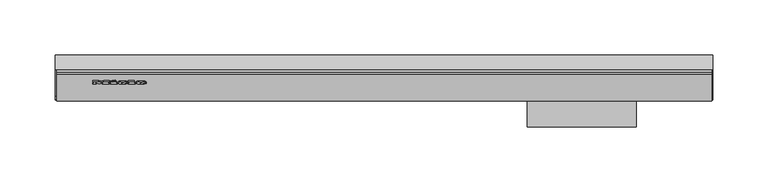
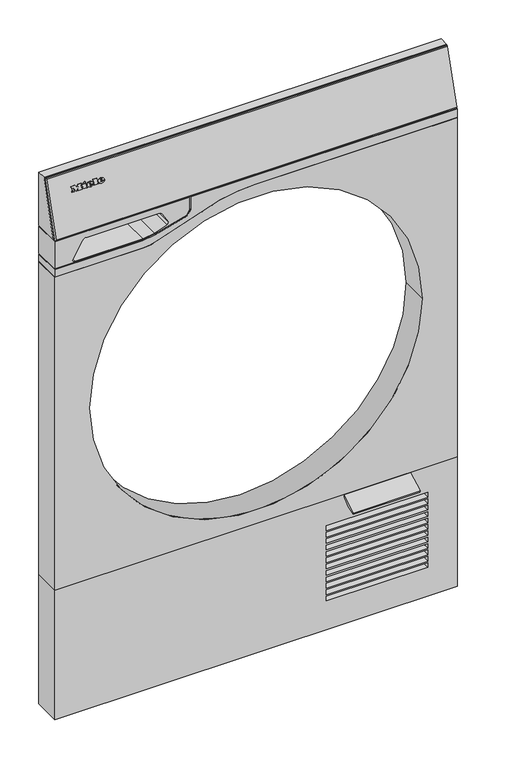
"""IFC4 building model written with IfcOpenShell, lengths in millimetres: proxy geometry, 12695040_EU3_TQ1000WP_LW : 12Q10001_EU3_12695040_TQ1000WP_LW."""

from ifc_helpers import new_model, si_unit, point, frame, frame_2d, origin, place, context, project, spatial, polyline, circle_curve, ellipse_curve, trimmed, segment, composite_curve, outline, extrude, faceted_brep, source, transform, mapped, element, save
from ifc_brep_helpers import plane_surface, cylinder_surface, revolved_surface, extruded_surface, advanced_brep


def specialty_equipment_3a14cf9e(model_context):
    return source(origin(), model_context, "Body", "SolidModel", [
        extrude(outline(polyline([(0.0, 0.0), (0.0, -1.304), (-5.576, -1.304), (-7.92, 1.6960001), (-10.256, -1.304), (-15.128, -1.304), (-15.128, 0.0), (-14.112, 0.0), (-14.112, 5.3520001), (-15.128, 5.3520001), (-15.128, 6.6960001), (-8.744, 6.6960001), (-8.744, 5.3520001), (-9.728, 5.3520001), (-9.728, 1.8807777), (-6.136, 6.6960001), (-2.56, 1.9488753), (-2.56, 5.3520001), (-3.52, 5.3520001), (-3.52, 6.6960001), (0.0, 6.6960001), (0.0, 5.3520001), (-0.968, 5.3520001), (-0.968, 0.0), (0.0, 0.0)])), frame((-264.1667108, -605.6421739, 828.8606069), z_axis=(0.0, -0.9563047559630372, 0.2923717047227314), x_axis=(-1.0, 0.0, 0.0)), (0.0, 0.0, 1.0), 1.0),
        extrude(outline(polyline([(0.0, 0.0), (0.0, -1.304), (-5.504, -1.304), (-5.504, 5.3520001), (-6.488, 5.3520001), (-6.488, 6.6960001), (0.0, 6.6960001), (0.0, 5.3520001), (-0.96, 5.3520001), (-0.96, 0.0), (0.0, 0.0)])), frame((-231.7027108, -605.6421739, 828.8606069), z_axis=(0.0, -0.9563047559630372, 0.2923717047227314), x_axis=(-1.0, 0.0, 0.0)), (0.0, 0.0, 1.0), 1.0),
        extrude(outline(polyline([(0.0, 0.0), (-0.0109086, -2.9993294), (-1.4390415, -2.9920868), (-1.4315307, 0.0), (0.0, 0.0)])), frame((-246.2467108, -605.3989207, 829.6562525), z_axis=(0.0, -0.9563047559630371, 0.29237170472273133), x_axis=(-0.42472021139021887, 0.26469131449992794, 0.8657662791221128)), (0.0, 0.0, 1.0), 1.0),
        extrude(outline(polyline([(-0.4933908, 2.4141097), (-2.7800845, -2.4601583), (-7.0459743, -0.4588766), (-7.4401146, -1.2990179), (-8.656871, -0.7281939), (-5.976037, 4.9862153), (-4.7592806, 4.4153914), (-5.1636143, 3.5535223), (-2.1941494, 2.16044), (-1.7898157, 3.0223091), (-0.4933908, 2.4141097)])), frame((-246.2467108, -605.3989207, 829.6562525), z_axis=(0.0, -0.9563047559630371, 0.29237170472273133), x_axis=(-0.42472021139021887, 0.26469131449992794, 0.8657662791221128)), (0.0, 0.0, 1.0), 1.0),
        advanced_brep(
        [(-237.5027108, -608.0018629, 824.5627158), (-237.5027108, -607.7656265, 825.33541), (-232.1507108, -607.7656265, 825.33541), (-241.4627108, -607.7656265, 825.33541), (-239.2627108, -608.5561996, 822.749562), (-232.2867108, -608.0018629, 824.5627158), (-234.7027108, -608.0018629, 824.5627158), (-236.6067108, -608.2638279, 823.7058667), (-237.5027108, -607.4662379, 826.3146661), (-237.5027108, -607.2112898, 827.1485638), (-236.1347108, -607.2112898, 827.1485638), (-236.1347108, -607.4662379, 826.3146661), (-237.5027108, -607.0455581, 824.2703441), (-236.6067108, -607.3075232, 823.413495), (-234.7027108, -607.0455581, 824.2703441), (-232.2867108, -607.0455581, 824.2703441), (-239.2627108, -607.5998949, 822.4571902), (-241.4627108, -606.8093218, 825.0430383), (-232.1507108, -606.8093218, 825.0430383), (-237.5027108, -606.8093218, 825.0430383), (-237.5027108, -606.5099332, 826.0222944), (-236.1347108, -606.5099332, 826.0222944), (-236.1347108, -606.254985, 826.8561921), (-237.5027108, -606.254985, 826.8561921)],
        [
            (0, 1),
            (1, 2),
            (2, 3, ellipse_curve(frame((-236.8067108, -607.7656265, 825.33541), z_axis=(0.0, -0.9563047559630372, 0.2923717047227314), x_axis=(-1.0, 0.0, 0.0)), 4.656, 3.848)),
            (3, 4, circle_curve(frame((-238.3666672, -607.6861014, 825.5955249), z_axis=(0.0, -0.9563047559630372, 0.2923717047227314), x_axis=(0.0, -0.2923717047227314, -0.9563047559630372)), 3.1079688)),
            (4, 5, circle_curve(frame((-236.8999173, -607.0686124, 827.6152406), z_axis=(0.0, -0.9563047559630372, 0.2923717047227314), x_axis=(0.0, -0.2923717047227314, -0.9563047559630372)), 5.6098607)),
            (5, 6),
            (6, 7, circle_curve(frame((-236.215652, -607.7843383, 825.2742065), z_axis=(0.0, 0.9563047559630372, -0.2923717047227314), x_axis=(0.0, -0.2923717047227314, -0.9563047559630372)), 1.6859795)),
            (7, 0, circle_curve(frame((-236.6067108, -608.0018629, 824.5627158), z_axis=(0.0, 0.9563047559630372, -0.2923717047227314), x_axis=(0.0, -0.2923717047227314, -0.9563047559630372)), 0.896)),
            (8, 9),
            (9, 10, circle_curve(frame((-236.8187108, -607.2112898, 827.1485638), z_axis=(0.0, 0.9563047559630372, -0.2923717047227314), x_axis=(0.0, -0.2923717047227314, -0.9563047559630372)), 0.684)),
            (10, 11),
            (11, 8),
            (12, 13, circle_curve(frame((-236.6067108, -607.0455581, 824.2703441), z_axis=(0.0, -0.9563047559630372, 0.2923717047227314), x_axis=(0.0, -0.2923717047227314, -0.9563047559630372)), 0.896)),
            (13, 14, circle_curve(frame((-236.215652, -606.8280336, 824.9818348), z_axis=(0.0, -0.9563047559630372, 0.2923717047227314), x_axis=(0.0, -0.2923717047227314, -0.9563047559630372)), 1.6859795)),
            (14, 15),
            (15, 16, circle_curve(frame((-236.8999173, -606.1123076, 827.3228688), z_axis=(0.0, 0.9563047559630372, -0.2923717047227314), x_axis=(0.0, -0.2923717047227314, -0.9563047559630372)), 5.6098607)),
            (16, 17, circle_curve(frame((-238.3666672, -606.7297967, 825.3031532), z_axis=(0.0, 0.9563047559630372, -0.2923717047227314), x_axis=(0.0, -0.2923717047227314, -0.9563047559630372)), 3.1079688)),
            (17, 18, ellipse_curve(frame((-236.8067108, -606.8093218, 825.0430383), z_axis=(0.0, 0.9563047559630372, -0.2923717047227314), x_axis=(-1.0, 0.0, 0.0)), 4.656, 3.848)),
            (18, 19),
            (19, 12),
            (20, 21),
            (21, 22),
            (22, 23, circle_curve(frame((-236.8187108, -606.254985, 826.8561921), z_axis=(0.0, -0.9563047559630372, 0.2923717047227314), x_axis=(0.0, -0.2923717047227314, -0.9563047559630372)), 0.684)),
            (23, 20),
            (0, 12),
            (19, 1),
            (18, 2),
            (5, 15),
            (14, 6),
            (17, 3),
            (13, 7),
            (16, 4),
            (8, 20),
            (23, 9),
            (22, 10),
            (21, 11),
        ],
        [
            plane_surface(frame((-237.5027108, -607.7656265, 825.33541), z_axis=(0.0, -0.9563047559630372, 0.29237170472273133), x_axis=(0.0, 0.29237170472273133, 0.9563047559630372))),
            plane_surface(frame((-237.5027108, -606.8093218, 825.0430383), z_axis=(0.0, 0.9563047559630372, -0.29237170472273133), x_axis=(0.0, -0.29237170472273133, -0.9563047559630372))),
            plane_surface(frame((-237.5027108, -608.0018629, 824.5627158), z_axis=(1.0, 0.0, 0.0), x_axis=(0.0, 0.9563047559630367, -0.2923717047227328))),
            plane_surface(frame((-237.5027108, -607.7656265, 825.33541), z_axis=(0.0, -0.2923717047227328, -0.9563047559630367), x_axis=(0.0, 0.9563047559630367, -0.2923717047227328))),
            plane_surface(frame((-232.2867108, -608.0018629, 824.5627158), z_axis=(0.0, 0.2923717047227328, 0.9563047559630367), x_axis=(0.0, 0.9563047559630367, -0.2923717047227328))),
            extruded_surface(trimmed(ellipse_curve(frame((-236.8067108, -605.853017, 824.7506666), z_axis=(0.0, -0.9563047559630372, 0.2923717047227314), x_axis=(-1.0, 0.0, 0.0)), 4.656, 3.848), [point((-232.1507108, -605.853017, 824.7506666))], [point((-241.4627108, -605.853017, 824.7506666))], True, "CARTESIAN"), (0.0, -0.9563047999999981, 0.2923716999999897), 1.0000000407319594),
            revolved_surface(polyline([(-236.215652, -607.3209662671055, 823.3695245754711), (-236.215652, -608.2772710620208, 823.6618962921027)]), (-236.215652, -606.8280336, 824.9818348), (0.0, 0.9563047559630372, -0.2923717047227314)),
            revolved_surface(polyline([(-236.6067108, -607.3075231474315, 823.4134950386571), (-236.6067108, -608.2638279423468, 823.7058667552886)]), (-236.6067108, -607.0455581, 824.2703441), (0.0, 0.9563047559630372, -0.2923717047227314)),
            cylinder_surface(frame((-238.3666672, -606.7297967, 825.3031532), z_axis=(0.0, -0.9563047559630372, 0.2923717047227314), x_axis=(0.0, -0.2923717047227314, -0.9563047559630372)), 3.1079688),
            cylinder_surface(frame((-236.8999173, -606.1123076, 827.3228688), z_axis=(0.0, -0.9563047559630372, 0.2923717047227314), x_axis=(0.0, -0.2923717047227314, -0.9563047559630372)), 5.6098607),
            plane_surface(frame((-237.5027108, -607.4662379, 826.3146661), z_axis=(1.0, 0.0, 0.0), x_axis=(0.0, 0.9563047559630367, -0.2923717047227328))),
            revolved_surface(polyline([(-236.8187108, -606.4549672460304, 826.2020796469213), (-236.8187108, -607.4112720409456, 826.4944513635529)]), (-236.8187108, -606.254985, 826.8561921), (0.0, 0.9563047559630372, -0.2923717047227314)),
            plane_surface(frame((-236.1347108, -607.2112898, 827.1485638), z_axis=(-1.0, 0.0, 0.0), x_axis=(0.0, 0.9563047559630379, -0.29237170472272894))),
            plane_surface(frame((-236.1347108, -607.4662379, 826.3146661), z_axis=(0.0, 0.2923717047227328, 0.9563047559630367), x_axis=(0.0, 0.9563047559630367, -0.2923717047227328))),
        ],
        [
            (0, [[1, 2, 3, 4, 5, 6, 7, 8], [9, 10, 11, 12]]),
            (1, [[13, 14, 15, 16, 17, 18, 19, 20], [21, 22, 23, 24]]),
            (2, [[-1, 25, -20, 26]]),
            (3, [[-2, -26, -19, 27]]),
            (4, [[-6, 28, -15, 29]]),
            (5, [[-3, -27, -18, 30]]),
            (6, [[-7, -29, -14, 31]]),
            (7, [[-8, -31, -13, -25]]),
            (8, [[-4, -30, -17, 32]]),
            (9, [[-5, -32, -16, -28]]),
            (10, [[-9, 33, -24, 34]]),
            (11, [[-10, -34, -23, 35]]),
            (12, [[-11, -35, -22, 36]]),
            (13, [[-12, -36, -21, -33]]),
        ],
    ),
        advanced_brep(
        [(-220.8067108, -608.0018629, 824.5627158), (-220.8067108, -607.7656265, 825.33541), (-215.4547108, -607.7656265, 825.33541), (-224.7667108, -607.7656265, 825.33541), (-222.5667108, -608.5561996, 822.749562), (-215.5907108, -608.0018629, 824.5627158), (-218.0067108, -608.0018629, 824.5627158), (-219.9107108, -608.2638279, 823.7058667), (-220.8067108, -607.4662379, 826.3146661), (-220.8067108, -607.2112898, 827.1485638), (-219.4387108, -607.2112898, 827.1485638), (-219.4387108, -607.4662379, 826.3146661), (-220.8067108, -607.0455581, 824.2703441), (-219.9107108, -607.3075232, 823.413495), (-218.0067108, -607.0455581, 824.2703441), (-215.5907108, -607.0455581, 824.2703441), (-222.5667108, -607.5998949, 822.4571902), (-224.7667108, -606.8093218, 825.0430383), (-215.4547108, -606.8093218, 825.0430383), (-220.8067108, -606.8093218, 825.0430383), (-220.8067108, -606.5099332, 826.0222944), (-219.4387108, -606.5099332, 826.0222944), (-219.4387108, -606.254985, 826.8561921), (-220.8067108, -606.254985, 826.8561921)],
        [
            (0, 1),
            (1, 2),
            (2, 3, ellipse_curve(frame((-220.1107108, -607.7656265, 825.33541), z_axis=(0.0, -0.9563047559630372, 0.2923717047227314), x_axis=(-1.0, 0.0, 0.0)), 4.656, 3.848)),
            (3, 4, circle_curve(frame((-221.6706672, -607.6861014, 825.5955249), z_axis=(0.0, -0.9563047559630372, 0.2923717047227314), x_axis=(0.0, -0.2923717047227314, -0.9563047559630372)), 3.1079688)),
            (4, 5, circle_curve(frame((-220.2039173, -607.0686124, 827.6152406), z_axis=(0.0, -0.9563047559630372, 0.2923717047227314), x_axis=(0.0, -0.2923717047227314, -0.9563047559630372)), 5.6098607)),
            (5, 6),
            (6, 7, circle_curve(frame((-219.519652, -607.7843383, 825.2742065), z_axis=(0.0, 0.9563047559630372, -0.2923717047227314), x_axis=(0.0, -0.2923717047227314, -0.9563047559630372)), 1.6859795)),
            (7, 0, circle_curve(frame((-219.9107108, -608.0018629, 824.5627158), z_axis=(0.0, 0.9563047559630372, -0.2923717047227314), x_axis=(0.0, -0.2923717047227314, -0.9563047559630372)), 0.896)),
            (8, 9),
            (9, 10, circle_curve(frame((-220.1227108, -607.2112898, 827.1485638), z_axis=(0.0, 0.9563047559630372, -0.2923717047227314), x_axis=(0.0, -0.2923717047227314, -0.9563047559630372)), 0.684)),
            (10, 11),
            (11, 8),
            (12, 13, circle_curve(frame((-219.9107108, -607.0455581, 824.2703441), z_axis=(0.0, -0.9563047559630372, 0.2923717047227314), x_axis=(0.0, -0.2923717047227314, -0.9563047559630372)), 0.896)),
            (13, 14, circle_curve(frame((-219.519652, -606.8280336, 824.9818348), z_axis=(0.0, -0.9563047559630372, 0.2923717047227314), x_axis=(0.0, -0.2923717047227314, -0.9563047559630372)), 1.6859795)),
            (14, 15),
            (15, 16, circle_curve(frame((-220.2039173, -606.1123076, 827.3228688), z_axis=(0.0, 0.9563047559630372, -0.2923717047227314), x_axis=(0.0, -0.2923717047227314, -0.9563047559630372)), 5.6098607)),
            (16, 17, circle_curve(frame((-221.6706672, -606.7297967, 825.3031532), z_axis=(0.0, 0.9563047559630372, -0.2923717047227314), x_axis=(0.0, -0.2923717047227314, -0.9563047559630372)), 3.1079688)),
            (17, 18, ellipse_curve(frame((-220.1107108, -606.8093218, 825.0430383), z_axis=(0.0, 0.9563047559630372, -0.2923717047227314), x_axis=(-1.0, 0.0, 0.0)), 4.656, 3.848)),
            (18, 19),
            (19, 12),
            (20, 21),
            (21, 22),
            (22, 23, circle_curve(frame((-220.1227108, -606.254985, 826.8561921), z_axis=(0.0, -0.9563047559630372, 0.2923717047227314), x_axis=(0.0, -0.2923717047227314, -0.9563047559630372)), 0.684)),
            (23, 20),
            (0, 12),
            (19, 1),
            (18, 2),
            (5, 15),
            (14, 6),
            (17, 3),
            (13, 7),
            (16, 4),
            (8, 20),
            (23, 9),
            (22, 10),
            (21, 11),
        ],
        [
            plane_surface(frame((-220.8067108, -607.7656265, 825.33541), z_axis=(0.0, -0.9563047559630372, 0.29237170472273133), x_axis=(0.0, 0.29237170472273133, 0.9563047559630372))),
            plane_surface(frame((-220.8067108, -606.8093218, 825.0430383), z_axis=(0.0, 0.9563047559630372, -0.29237170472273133), x_axis=(0.0, -0.29237170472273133, -0.9563047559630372))),
            plane_surface(frame((-220.8067108, -608.0018629, 824.5627158), z_axis=(1.0, 0.0, 0.0), x_axis=(0.0, 0.9563047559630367, -0.2923717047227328))),
            plane_surface(frame((-220.8067108, -607.7656265, 825.33541), z_axis=(0.0, -0.2923717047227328, -0.9563047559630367), x_axis=(0.0, 0.9563047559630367, -0.2923717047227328))),
            plane_surface(frame((-215.5907108, -608.0018629, 824.5627158), z_axis=(0.0, 0.2923717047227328, 0.9563047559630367), x_axis=(0.0, 0.9563047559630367, -0.2923717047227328))),
            extruded_surface(trimmed(ellipse_curve(frame((-220.1107108, -605.853017, 824.7506666), z_axis=(0.0, -0.9563047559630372, 0.2923717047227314), x_axis=(-1.0, 0.0, 0.0)), 4.656, 3.848), [point((-215.4547108, -605.853017, 824.7506666))], [point((-224.7667108, -605.853017, 824.7506666))], True, "CARTESIAN"), (0.0, -0.9563047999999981, 0.2923716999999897), 1.0000000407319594),
            revolved_surface(polyline([(-219.519652, -607.3209662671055, 823.3695245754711), (-219.519652, -608.2772710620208, 823.6618962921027)]), (-219.519652, -606.8280336, 824.9818348), (0.0, 0.9563047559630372, -0.2923717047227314)),
            revolved_surface(polyline([(-219.9107108, -607.3075231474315, 823.4134950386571), (-219.9107108, -608.2638279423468, 823.7058667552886)]), (-219.9107108, -607.0455581, 824.2703441), (0.0, 0.9563047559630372, -0.2923717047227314)),
            cylinder_surface(frame((-221.6706672, -606.7297967, 825.3031532), z_axis=(0.0, -0.9563047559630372, 0.2923717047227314), x_axis=(0.0, -0.2923717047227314, -0.9563047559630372)), 3.1079688),
            cylinder_surface(frame((-220.2039173, -606.1123076, 827.3228688), z_axis=(0.0, -0.9563047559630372, 0.2923717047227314), x_axis=(0.0, -0.2923717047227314, -0.9563047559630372)), 5.6098607),
            plane_surface(frame((-220.8067108, -607.4662379, 826.3146661), z_axis=(1.0, 0.0, 0.0), x_axis=(0.0, 0.9563047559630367, -0.2923717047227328))),
            revolved_surface(polyline([(-220.1227108, -606.4549672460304, 826.2020796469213), (-220.1227108, -607.4112720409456, 826.4944513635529)]), (-220.1227108, -606.254985, 826.8561921), (0.0, 0.9563047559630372, -0.2923717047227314)),
            plane_surface(frame((-219.4387108, -607.2112898, 827.1485638), z_axis=(-1.0, 0.0, 0.0), x_axis=(0.0, 0.9563047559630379, -0.29237170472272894))),
            plane_surface(frame((-219.4387108, -607.4662379, 826.3146661), z_axis=(0.0, 0.2923717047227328, 0.9563047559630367), x_axis=(0.0, 0.9563047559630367, -0.2923717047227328))),
        ],
        [
            (0, [[1, 2, 3, 4, 5, 6, 7, 8], [9, 10, 11, 12]]),
            (1, [[13, 14, 15, 16, 17, 18, 19, 20], [21, 22, 23, 24]]),
            (2, [[-1, 25, -20, 26]]),
            (3, [[-2, -26, -19, 27]]),
            (4, [[-6, 28, -15, 29]]),
            (5, [[-3, -27, -18, 30]]),
            (6, [[-7, -29, -14, 31]]),
            (7, [[-8, -31, -13, -25]]),
            (8, [[-4, -30, -17, 32]]),
            (9, [[-5, -32, -16, -28]]),
            (10, [[-9, 33, -24, 34]]),
            (11, [[-10, -34, -23, 35]]),
            (12, [[-11, -35, -22, 36]]),
            (13, [[-12, -36, -21, -33]]),
        ],
    ),
        extrude(outline(composite_curve([segment(polyline([(710.4000001, -167.8774567), (710.4000001, -298.0), (220.6188977, -298.0), (220.6188977, 298.0), (751.9000001, 298.0), (751.9000001, 0.0)]), True, "CONTINUOUS"), segment(trimmed(circle_curve(frame_2d((501.5187296, 1.5017391)), 250.3857741), [point((751.9000001, 0.0))], [point((745.6736814, -54.0085784))], False, "CARTESIAN"), True, "CONTINUOUS"), segment(trimmed(circle_curve(frame_2d((280.8618856, 51.6695993)), 476.6737697), [point((745.6736814, -54.0085784))], [point((714.6452508, -145.9408124))], False, "CARTESIAN"), True, "CONTINUOUS"), segment(trimmed(circle_curve(frame_2d((769.1996504, -167.8774567)), 58.7996503), [point((714.6452508, -145.9408124))], [point((710.4000001, -167.8774567))], True, "CARTESIAN"), True, "CONTINUOUS")], self_intersect=False), holes=[composite_curve([segment(trimmed(circle_curve(frame_2d((487.4000306, 0.0)), 246.0), [point((487.4000306, -246.0))], [point((487.4000306, 246.0))], True, "CARTESIAN"), True, "CONTINUOUS"), segment(trimmed(circle_curve(frame_2d((487.4000306, 0.0)), 246.0), [point((487.4000306, 246.0))], [point((487.4000306, -246.0))], True, "CARTESIAN"), True, "CONTINUOUS")], self_intersect=False)]), frame((0.0, -622.9000366, 0.0), z_axis=(0.0, 1.0, 0.0), x_axis=(0.0, 0.0, 1.0)), (0.0, 0.0, 1.0), 40.6000366),
        faceted_brep([(298.0, -582.3, 850.4), (298.0, -595.4160192, 850.4), (298.0, -595.6524096, 849.626802), (298.0, -595.5935182, 848.4857744), (298.0, -619.4047506, 767.3), (298.0, -582.3, 767.3), (-298.0, -595.5935182, 848.4857744), (-298.0, -595.6524096, 849.626802), (-298.0, -595.4160192, 850.4), (-298.0, -582.3, 850.4), (-298.0, -582.3, 767.3), (-298.0, -619.4047506, 767.3), (-97.1149075, -582.3, 767.3), (-97.1149075, -582.3, 845.1816163), (-98.3639145, -582.3, 845.1816163), (-98.3639145, -582.3, 767.3), (-98.3639145, -619.4047506, 767.3), (-98.3639145, -596.5626052, 845.1816163), (-97.1149075, -596.5626052, 845.1816163), (-97.1149075, -619.4047506, 767.3)], [[[0, 1, 2, 3, 4, 5]], [[6, 7, 8, 9, 10, 11]], [[9, 0, 5, 12, 13, 14, 15, 10]], [[1, 0, 9, 8]], [[2, 1, 8, 7]], [[3, 2, 7, 6]], [[3, 6, 11, 16, 17, 18, 19, 4]], [[19, 12, 5, 4]], [[12, 19, 18, 13]], [[14, 17, 16, 15]], [[15, 16, 11, 10]], [[13, 18, 17, 14]]]),
        advanced_brep(
        [(298.0, -622.9000366, 766.0), (298.0, -622.9000366, 751.9000001), (298.0, -582.3, 751.9000001), (298.0, -582.3, 766.0), (-298.0, -582.3, 710.4000001), (-298.0, -622.9000366, 710.4000001), (-298.0, -622.9000366, 722.0), (-298.0, -582.3, 722.0), (-167.8774567, -582.3, 710.4000001), (-167.8774567, -582.3, 722.0), (-149.4685059, -582.3, 725.3481445), (-102.3863678, -582.3, 737.9773316), (-96.8820038, -582.3, 745.9256595), (-96.8820038, -582.3, 766.0), (0.3876601, -582.3, 751.9000001), (-54.0085784, -582.3, 745.6736814), (-143.4021406, -582.3, 715.7927986), (-96.8820038, -622.9000366, 766.0), (-96.8820038, -622.9000366, 745.9256595), (-102.3863678, -622.9000366, 737.9773316), (-149.4685059, -622.9000366, 725.3481445), (-167.8774567, -622.9000366, 722.0), (-167.8774567, -622.9000366, 710.4000001), (-143.4021406, -622.9000366, 715.7927986), (-54.0085784, -622.9000366, 745.6736814), (0.3876601, -622.9000366, 751.9000001)],
        [
            (0, 1),
            (1, 2),
            (2, 3),
            (3, 0),
            (4, 5),
            (5, 6),
            (6, 7),
            (7, 4),
            (8, 4),
            (7, 9),
            (9, 10),
            (10, 11),
            (11, 12),
            (12, 13),
            (13, 3),
            (2, 14),
            (14, 15, circle_curve(frame((1.4829678, -582.3, 501.6012928), z_axis=(0.0, -1.0, 0.0), x_axis=(1.0, 0.0, 0.0)), 250.3011038)),
            (15, 16, circle_curve(frame((51.6695993, -582.3, 280.8618856), z_axis=(0.0, -1.0, 0.0), x_axis=(1.0, 0.0, 0.0)), 476.6737697)),
            (16, 8, circle_curve(frame((-168.6248157, -582.3, 772.0291409), z_axis=(0.0, 1.0, 0.0), x_axis=(1.0, 0.0, 0.0)), 61.6336721)),
            (17, 0),
            (13, 17),
            (17, 18),
            (18, 19),
            (19, 20),
            (20, 21),
            (21, 6),
            (5, 22),
            (22, 23, circle_curve(frame((-168.6248157, -622.9000366, 772.0291409), z_axis=(0.0, -1.0, 0.0), x_axis=(1.0, 0.0, 0.0)), 61.6336721)),
            (23, 24, circle_curve(frame((51.6695993, -622.9000366, 280.8618856), z_axis=(0.0, 1.0, 0.0), x_axis=(1.0, 0.0, 0.0)), 476.6737697)),
            (24, 25, circle_curve(frame((1.4829678, -622.9000366, 501.6012928), z_axis=(0.0, 1.0, 0.0), x_axis=(1.0, 0.0, 0.0)), 250.3011038)),
            (25, 1),
            (8, 22),
            (25, 14),
            (24, 15),
            (23, 16),
            (9, 21),
            (20, 10),
            (19, 11),
            (18, 12),
        ],
        [
            plane_surface(frame((298.0, -582.3, 850.4), z_axis=(1.0, 0.0, 0.0), x_axis=(0.0, 0.0, 1.0))),
            plane_surface(frame((-298.0, -582.3, 850.4), z_axis=(-1.0, 0.0, 0.0), x_axis=(0.0, 0.0, -1.0))),
            plane_surface(frame((298.0, -582.3, 710.4000001), z_axis=(0.0, 1.0, 0.0), x_axis=(-1.0, 0.0, 0.0))),
            plane_surface(frame((298.0, -619.7860317, 766.0), z_axis=(0.0, 0.0, 1.0), x_axis=(-1.0, 0.0, 0.0))),
            plane_surface(frame((298.0, -622.9000366, 766.0), z_axis=(0.0, -1.0, 0.0), x_axis=(-1.0, 0.0, 0.0))),
            plane_surface(frame((298.0, -622.9000366, 710.4000001), z_axis=(0.0, 0.0, -1.0), x_axis=(-1.0, 0.0, 0.0))),
            plane_surface(frame((327.5782755, -785.1521271, 751.9000001), z_axis=(0.0, 0.0, -1.0), x_axis=(0.0, 1.0, 0.0))),
            revolved_surface(polyline([(251.7840716, -622.9000366, 501.6012928), (251.7840716, -582.3, 501.6012928)]), (1.4829678, -468.8232111, 501.6012928), (0.0, -1.0, 0.0)),
            revolved_surface(polyline([(528.3433689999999, -622.9000366, 280.8618856), (528.3433689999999, -582.3, 280.8618856)]), (51.6695993, -468.8232111, 280.8618856), (0.0, -1.0, 0.0)),
            cylinder_surface(frame((-168.6248157, -468.8232111, 772.0291409), z_axis=(0.0, 1.0, 0.0), x_axis=(1.0, 0.0, 0.0)), 61.6336721),
            plane_surface(frame((-167.8774567, -816.1450531, 722.0), z_axis=(-0.1789404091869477, 0.0, 0.9838599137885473), x_axis=(0.0, 1.0, 0.0))),
            plane_surface(frame((-149.4685059, -816.1450531, 725.3481445), z_axis=(-0.25907869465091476, 0.0, 0.9658562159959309), x_axis=(0.0, 1.0, 0.0))),
            plane_surface(frame((-102.3863678, -816.1450531, 737.9773316), z_axis=(-0.8221110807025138, 0.0, 0.5693271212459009), x_axis=(0.0, 1.0, 0.0))),
            plane_surface(frame((-96.8820038, -816.1450531, 745.9256595), z_axis=(-1.0, 0.0, 0.0), x_axis=(0.0, 1.0, 0.0))),
            plane_surface(frame((-311.5967521, -816.1450531, 722.0), z_axis=(0.0, 0.0, 1.0), x_axis=(0.0, 1.0, 0.0))),
        ],
        [
            (0, [[1, 2, 3, 4]]),
            (1, [[5, 6, 7, 8]]),
            (2, [[9, -8, 10, 11, 12, 13, 14, 15, -3, 16, 17, 18, 19]]),
            (3, [[20, -4, -15, 21]]),
            (4, [[-1, -20, 22, 23, 24, 25, 26, -6, 27, 28, 29, 30, 31]]),
            (5, [[-5, -9, 32, -27]]),
            (6, [[33, -16, -2, -31]]),
            (7, [[-33, -30, 34, -17]]),
            (8, [[-34, -29, 35, -18]]),
            (9, [[-35, -28, -32, -19]]),
            (10, [[36, -25, 37, -11]]),
            (11, [[-37, -24, 38, -12]]),
            (12, [[-38, -23, 39, -13]]),
            (13, [[-39, -22, -21, -14]]),
            (14, [[-36, -10, -7, -26]]),
        ],
    ),
        advanced_brep(
        [(-298.0, -622.9000366, 723.8), (-298.0, -622.9000366, 766.0), (-298.0, -582.3, 766.0), (-298.0, -582.3, 723.8), (-98.6820038, -582.3, 766.0), (-98.6820038, -582.3, 746.4139612), (-103.47678, -582.3, 739.4902815), (-150.0992146, -582.3, 727.0340322), (-167.8807468, -582.3, 723.8), (-144.9622585, -582.3, 756.4000001), (-251.3684414, -582.3, 756.4000001), (-256.8492926, -582.3, 753.6352053), (-271.466357, -582.3, 728.1924195), (-268.5526912, -582.3, 725.1365724), (-167.7392652, -582.3, 725.1365724), (-150.7238643, -582.3, 728.2394166), (-132.4342373, -582.3, 735.1198487), (-130.2918226, -582.3, 738.466763), (-138.6192464, -582.3, 753.2843776), (-98.6820038, -622.9000366, 766.0), (-167.8807468, -622.9000366, 723.8), (-150.0992146, -622.9000366, 727.0340322), (-103.47678, -622.9000366, 739.4902815), (-98.6820038, -622.9000366, 746.4139612), (-251.3684414, -622.9000366, 756.4000001), (-144.9622585, -622.9000366, 756.4000001), (-138.6192464, -622.9000366, 753.2843776), (-130.2918226, -622.9000366, 738.466763), (-132.4342373, -622.9000366, 735.1198487), (-150.7238643, -622.9000366, 728.2394166), (-167.7392652, -622.9000366, 725.1365724), (-268.5526912, -622.9000366, 725.1365724), (-271.466357, -622.9000366, 728.1924195), (-256.8492926, -622.9000366, 753.6352053)],
        [
            (0, 1),
            (1, 2),
            (2, 3),
            (3, 0),
            (2, 4),
            (4, 5),
            (5, 6),
            (6, 7),
            (7, 8),
            (8, 3),
            (9, 10),
            (10, 11, circle_curve(frame((-251.3684414, -582.3, 749.5850603), z_axis=(0.0, -1.0, 0.0), x_axis=(1.0, 0.0, 0.0)), 6.8149398)),
            (11, 12),
            (12, 13, circle_curve(frame((-268.5526912, -582.3, 728.0535458), z_axis=(0.0, -1.0, 0.0), x_axis=(1.0, 0.0, 0.0)), 2.9169735)),
            (13, 14),
            (14, 15),
            (15, 16),
            (16, 17, circle_curve(frame((-133.6032393, -582.3, 738.2273006), z_axis=(0.0, -1.0, 0.0), x_axis=(1.0, 0.0, 0.0)), 3.3200637)),
            (17, 18),
            (18, 9, circle_curve(frame((-144.9622585, -582.3, 748.3854051), z_axis=(0.0, -1.0, 0.0), x_axis=(1.0, 0.0, 0.0)), 8.014595)),
            (1, 19),
            (19, 4),
            (0, 20),
            (20, 21),
            (21, 22),
            (22, 23),
            (23, 19),
            (24, 25),
            (25, 26, circle_curve(frame((-144.9622585, -622.9000366, 748.3854051), z_axis=(0.0, 1.0, 0.0), x_axis=(1.0, 0.0, 0.0)), 8.014595)),
            (26, 27),
            (27, 28, circle_curve(frame((-133.6032393, -622.9000366, 738.2273006), z_axis=(0.0, 1.0, 0.0), x_axis=(1.0, 0.0, 0.0)), 3.3200637)),
            (28, 29),
            (29, 30),
            (30, 31),
            (31, 32, circle_curve(frame((-268.5526912, -622.9000366, 728.0535458), z_axis=(0.0, 1.0, 0.0), x_axis=(1.0, 0.0, 0.0)), 2.9169735)),
            (32, 33),
            (33, 24, circle_curve(frame((-251.3684414, -622.9000366, 749.5850603), z_axis=(0.0, 1.0, 0.0), x_axis=(1.0, 0.0, 0.0)), 6.8149398)),
            (23, 5),
            (22, 6),
            (21, 7),
            (20, 8),
            (9, 25),
            (24, 10),
            (33, 11),
            (32, 12),
            (31, 13),
            (30, 14),
            (29, 15),
            (28, 16),
            (27, 17),
            (26, 18),
        ],
        [
            plane_surface(frame((-298.0, -582.3, 850.4), z_axis=(-1.0, 0.0, 0.0), x_axis=(0.0, 0.0, -1.0))),
            plane_surface(frame((298.0, -582.3, 710.4000001), z_axis=(0.0, 1.0, 0.0), x_axis=(-1.0, 0.0, 0.0))),
            plane_surface(frame((298.0, -619.7860317, 766.0), z_axis=(0.0, 0.0, 1.0), x_axis=(-1.0, 0.0, 0.0))),
            plane_surface(frame((298.0, -622.9000366, 766.0), z_axis=(0.0, -1.0, 0.0), x_axis=(-1.0, 0.0, 0.0))),
            plane_surface(frame((-98.6820038, -816.1450531, 766.0), z_axis=(1.0, 0.0, 0.0), x_axis=(0.0, 1.0, 0.0))),
            plane_surface(frame((-98.6820038, -816.1450531, 746.4139612), z_axis=(0.8221110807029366, 0.0, -0.5693271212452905), x_axis=(0.0, 1.0, 0.0))),
            plane_surface(frame((-103.47678, -816.1450531, 739.4902815), z_axis=(0.2581191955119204, 0.0, -0.9661130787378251), x_axis=(0.0, 1.0, 0.0))),
            plane_surface(frame((-150.0992146, -816.1450531, 727.0340322), z_axis=(0.1789404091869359, 0.0, -0.9838599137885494), x_axis=(0.0, 1.0, 0.0))),
            plane_surface(frame((-167.8807468, -816.1450531, 723.8), z_axis=(0.0, 0.0, -1.0), x_axis=(0.0, 1.0, 0.0))),
            plane_surface(frame((-144.9622585, -776.6138509, 756.4000001), z_axis=(0.0, 0.0, -1.0), x_axis=(0.0, 1.0, 0.0))),
            revolved_surface(polyline([(-244.5535016, -622.9000366, 749.5850603), (-244.5535016, -582.3, 749.5850603)]), (-251.3684414, -552.6469789, 749.5850603), (0.0, -1.0, 0.0)),
            plane_surface(frame((-256.8492926, -776.6138509, 753.6352053), z_axis=(0.8670908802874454, 0.0, -0.49814998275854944), x_axis=(0.0, 1.0, 0.0))),
            revolved_surface(polyline([(-265.63571770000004, -622.9000366, 728.0535458), (-265.63571770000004, -582.3, 728.0535458)]), (-268.5526912, -552.6469789, 728.0535458), (0.0, -1.0, 0.0)),
            plane_surface(frame((-268.5526912, -776.6138509, 725.1365724), z_axis=(0.0, 0.0, 1.0), x_axis=(0.0, 1.0, 0.0))),
            plane_surface(frame((-167.7392652, -776.6138509, 725.1365724), z_axis=(-0.1793966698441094, 0.0, 0.9837768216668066), x_axis=(0.0, 1.0, 0.0))),
            plane_surface(frame((-150.7238643, -776.6138509, 728.2394166), z_axis=(-0.35210229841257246, 0.0, 0.9359615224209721), x_axis=(0.0, 1.0, 0.0))),
            revolved_surface(polyline([(-130.28317560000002, -622.9000366, 738.2273006), (-130.28317560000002, -582.3, 738.2273006)]), (-133.6032393, -552.6469789, 738.2273006), (0.0, -1.0, 0.0)),
            plane_surface(frame((-130.2918226, -776.6138509, 738.466763), z_axis=(-0.8717636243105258, 0.0, -0.4899267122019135), x_axis=(0.0, 1.0, 0.0))),
            revolved_surface(polyline([(-136.94766349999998, -622.9000366, 748.3854051), (-136.94766349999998, -582.3, 748.3854051)]), (-144.9622585, -552.6469789, 748.3854051), (0.0, -1.0, 0.0)),
        ],
        [
            (0, [[1, 2, 3, 4]]),
            (1, [[-3, 5, 6, 7, 8, 9, 10], [11, 12, 13, 14, 15, 16, 17, 18, 19, 20]]),
            (2, [[21, 22, -5, -2]]),
            (3, [[-1, 23, 24, 25, 26, 27, -21], [28, 29, 30, 31, 32, 33, 34, 35, 36, 37]]),
            (4, [[38, -6, -22, -27]]),
            (5, [[-38, -26, 39, -7]]),
            (6, [[-39, -25, 40, -8]]),
            (7, [[-40, -24, 41, -9]]),
            (8, [[-41, -23, -4, -10]]),
            (9, [[42, -28, 43, -11]]),
            (10, [[-43, -37, 44, -12]]),
            (11, [[-44, -36, 45, -13]]),
            (12, [[-45, -35, 46, -14]]),
            (13, [[-46, -34, 47, -15]]),
            (14, [[-47, -33, 48, -16]]),
            (15, [[-48, -32, 49, -17]]),
            (16, [[-49, -31, 50, -18]]),
            (17, [[-50, -30, 51, -19]]),
            (18, [[-42, -20, -51, -29]]),
        ],
    ),
        extrude(outline(composite_curve([segment(polyline([(-623.9664345, 768.9246513), (-599.3688448, 849.3797419)]), True, "CONTINUOUS"), segment(trimmed(circle_curve(frame_2d((-597.1291842, 846.8597231)), 3.371435), [point((-599.3688448, 849.3797419))], [point((-597.7378433, 850.1757612))], False, "CARTESIAN"), True, "CONTINUOUS"), segment(trimmed(circle_curve(frame_2d((-597.0863815, 847.2609915)), 2.9866845), [point((-597.7378433, 850.1757612))], [point((-594.8515176, 849.2423214))], False, "CARTESIAN"), True, "CONTINUOUS"), segment(trimmed(circle_curve(frame_2d((-596.9053891, 847.0526318)), 3.0021873), [point((-594.8515176, 849.2423214))], [point((-594.1512498, 848.2475564))], False, "CARTESIAN"), True, "CONTINUOUS"), segment(polyline([(-594.1512498, 848.2475564), (-619.0056433, 766.7128147)]), True, "CONTINUOUS"), segment(trimmed(circle_curve(frame_2d((-620.1416526, 768.0354087)), 1.7434942), [point((-619.0056433, 766.7128147))], [point((-620.1121007, 766.2921649))], False, "CARTESIAN"), True, "CONTINUOUS"), segment(trimmed(circle_curve(frame_2d((-620.8721087, 768.9571772)), 2.7712637), [point((-620.1121007, 766.2921649))], [point((-622.9865117, 767.1657526))], False, "CARTESIAN"), True, "CONTINUOUS"), segment(trimmed(circle_curve(frame_2d((-621.9032198, 768.9216974)), 2.0632168), [point((-622.9865117, 767.1657526))], [point((-623.9664345, 768.9246513))], False, "CARTESIAN"), True, "CONTINUOUS")], self_intersect=False)), frame((-296.6980896, 0.0, 0.0), z_axis=(1.0, 0.0, 0.0), x_axis=(0.0, 1.0, 0.0)), (0.0, 0.0, 1.0), 593.8151855),
        faceted_brep([(298.0, -622.9000366, 220.6188977), (-298.0, -622.9000366, 220.6188977), (-298.0, -622.9000366, 18.0), (298.0, -622.9000366, 18.0), (104.351307, -622.9000366, 180.1999969), (254.1512245, -622.9000366, 180.1999969), (254.1512245, -622.9000366, 172.8845367), (104.351307, -622.9000366, 172.8845367), (104.351307, -622.9000366, 170.1999969), (254.1512245, -622.9000366, 170.1999969), (254.1512245, -622.9000366, 162.8845367), (104.351307, -622.9000366, 162.8845367), (104.351307, -622.9000366, 160.1999969), (254.1512245, -622.9000366, 160.1999969), (254.1512245, -622.9000366, 152.8845367), (104.351307, -622.9000366, 152.8845367), (104.351307, -622.9000366, 150.1999969), (254.1512245, -622.9000366, 150.1999969), (254.1512245, -622.9000366, 142.8845367), (104.351307, -622.9000366, 142.8845367), (104.351307, -622.9000366, 110.1999969), (254.1512245, -622.9000366, 110.1999969), (254.1512245, -622.9000366, 102.8845367), (104.351307, -622.9000366, 102.8845367), (104.351307, -622.9000366, 100.1999969), (254.1512245, -622.9000366, 100.1999969), (254.1512245, -622.9000366, 92.8845367), (104.351307, -622.9000366, 92.8845367), (104.351307, -622.9000366, 90.1999969), (254.1512245, -622.9000366, 90.1999969), (254.1512245, -622.9000366, 82.8845367), (104.351307, -622.9000366, 82.8845367), (104.351307, -622.9000366, 80.1999969), (254.1512245, -622.9000366, 80.1999969), (254.1512245, -622.9000366, 72.8845367), (104.351307, -622.9000366, 72.8845367), (104.351307, -622.9000366, 140.1999969), (254.1512245, -622.9000366, 140.1999969), (254.1512245, -622.9000366, 132.8845367), (104.351307, -622.9000366, 132.8845367), (104.351307, -622.9000366, 130.1999969), (254.1512245, -622.9000366, 130.1999969), (254.1512245, -622.9000366, 122.8845367), (104.351307, -622.9000366, 122.8845367), (104.351307, -622.9000366, 120.1999969), (254.1512245, -622.9000366, 120.1999969), (254.1512245, -622.9000366, 112.8845367), (104.351307, -622.9000366, 112.8845367), (104.351307, -622.9000366, 70.1999969), (254.1512245, -622.9000366, 70.1999969), (254.1512245, -622.9000366, 62.8845367), (104.351307, -622.9000366, 62.8845367), (298.0, -582.3, 220.6188977), (298.0, -582.3, 18.0), (-298.0, -582.3, 18.0), (-298.0, -582.3, 220.6188977), (104.351307, -604.2071025, 180.1999969), (254.1512245, -604.2071025, 180.1999969), (104.351307, -604.2071025, 172.8845367), (254.1512245, -604.2071025, 172.8845367), (104.351307, -604.2071025, 170.1999969), (254.1512245, -604.2071025, 170.1999969), (104.351307, -604.2071025, 162.8845367), (254.1512245, -604.2071025, 162.8845367), (104.351307, -604.2071025, 160.1999969), (254.1512245, -604.2071025, 160.1999969), (104.351307, -604.2071025, 152.8845367), (254.1512245, -604.2071025, 152.8845367), (104.351307, -604.2071025, 150.1999969), (254.1512245, -604.2071025, 150.1999969), (104.351307, -604.2071025, 142.8845367), (254.1512245, -604.2071025, 142.8845367), (104.351307, -604.2071025, 110.1999969), (254.1512245, -604.2071025, 110.1999969), (104.351307, -604.2071025, 102.8845367), (254.1512245, -604.2071025, 102.8845367), (104.351307, -604.2071025, 100.1999969), (254.1512245, -604.2071025, 100.1999969), (104.351307, -604.2071025, 92.8845367), (254.1512245, -604.2071025, 92.8845367), (104.351307, -604.2071025, 90.1999969), (254.1512245, -604.2071025, 90.1999969), (104.351307, -604.2071025, 82.8845367), (254.1512245, -604.2071025, 82.8845367), (104.351307, -604.2071025, 80.1999969), (254.1512245, -604.2071025, 80.1999969), (104.351307, -604.2071025, 72.8845367), (254.1512245, -604.2071025, 72.8845367), (104.351307, -604.2071025, 140.1999969), (254.1512245, -604.2071025, 140.1999969), (104.351307, -604.2071025, 132.8845367), (254.1512245, -604.2071025, 132.8845367), (104.351307, -604.2071025, 130.1999969), (254.1512245, -604.2071025, 130.1999969), (104.351307, -604.2071025, 122.8845367), (254.1512245, -604.2071025, 122.8845367), (104.351307, -604.2071025, 120.1999969), (254.1512245, -604.2071025, 120.1999969), (104.351307, -604.2071025, 112.8845367), (254.1512245, -604.2071025, 112.8845367), (104.351307, -604.2071025, 70.1999969), (254.1512245, -604.2071025, 70.1999969), (104.351307, -604.2071025, 62.8845367), (254.1512245, -604.2071025, 62.8845367)], [[[0, 1, 2, 3], [4, 5, 6, 7], [8, 9, 10, 11], [12, 13, 14, 15], [16, 17, 18, 19], [20, 21, 22, 23], [24, 25, 26, 27], [28, 29, 30, 31], [32, 33, 34, 35], [36, 37, 38, 39], [40, 41, 42, 43], [44, 45, 46, 47], [48, 49, 50, 51]], [[52, 53, 54, 55]], [[1, 0, 52, 55]], [[2, 1, 55, 54]], [[3, 2, 54, 53]], [[0, 3, 53, 52]], [[56, 57, 5, 4]], [[58, 56, 4, 7]], [[59, 58, 7, 6]], [[57, 59, 6, 5]], [[60, 61, 9, 8]], [[62, 60, 8, 11]], [[63, 62, 11, 10]], [[61, 63, 10, 9]], [[64, 65, 13, 12]], [[66, 64, 12, 15]], [[67, 66, 15, 14]], [[65, 67, 14, 13]], [[68, 69, 17, 16]], [[70, 68, 16, 19]], [[71, 70, 19, 18]], [[69, 71, 18, 17]], [[72, 73, 21, 20]], [[74, 72, 20, 23]], [[75, 74, 23, 22]], [[73, 75, 22, 21]], [[76, 77, 25, 24]], [[78, 76, 24, 27]], [[79, 78, 27, 26]], [[77, 79, 26, 25]], [[80, 81, 29, 28]], [[82, 80, 28, 31]], [[83, 82, 31, 30]], [[81, 83, 30, 29]], [[84, 85, 33, 32]], [[86, 84, 32, 35]], [[87, 86, 35, 34]], [[85, 87, 34, 33]], [[88, 89, 37, 36]], [[90, 88, 36, 39]], [[91, 90, 39, 38]], [[89, 91, 38, 37]], [[92, 93, 41, 40]], [[94, 92, 40, 43]], [[95, 94, 43, 42]], [[93, 95, 42, 41]], [[96, 97, 45, 44]], [[98, 96, 44, 47]], [[99, 98, 47, 46]], [[97, 99, 46, 45]], [[100, 101, 49, 48]], [[102, 100, 48, 51]], [[103, 102, 51, 50]], [[101, 103, 50, 49]], [[57, 56, 58, 59]], [[61, 60, 62, 63]], [[65, 64, 66, 67]], [[69, 68, 70, 71]], [[73, 72, 74, 75]], [[77, 76, 78, 79]], [[81, 80, 82, 83]], [[85, 84, 86, 87]], [[89, 88, 90, 91]], [[93, 92, 94, 95]], [[97, 96, 98, 99]], [[101, 100, 102, 103]]]),
        extrude(outline(polyline([(-622.9000366, 220.6188977), (-622.9000366, 218.6073379), (-635.224765, 209.1588655), (-647.2382767, 204.0372682), (-647.4662735, 206.4449525), (-622.9000366, 220.6188977)])), frame((129.8000031, 0.0, 0.0), z_axis=(1.0, 0.0, 0.0), x_axis=(0.0, 1.0, 0.0)), (0.0, 0.0, 1.0), 99.0),
    ])


if __name__ == "__main__":
    model = new_model("IFC4")
    model_context = context("Model", 3, world=origin())
    ifc_project = project(units=[si_unit("LENGTHUNIT", "METRE", prefix="MILLI")], contexts=[model_context])
    site = spatial("IfcSite", under=ifc_project)
    building = spatial("IfcBuilding", under=site)
    placement = place(None, origin())
    specialty_equipment_shape = specialty_equipment_3a14cf9e(model_context)
    element("IfcBuildingElementProxy", 1, Name="12695040_EU3_TQ1000WP_LW : 12Q10001_EU3_12695040_TQ1000WP_LW", ObjectType="12695040_EU3_TQ1000WP_LW : 12Q10001_EU3_12695040_TQ1000WP_LW", at=placement, inside=building, context=model_context, shape_type="MappedRepresentation", body=[
        mapped(specialty_equipment_shape, transform((0.0, 0.0, 0.0), x_axis=(1.0, 0.0, 0.0), y_axis=(0.0, 1.0, 0.0), z_axis=(0.0, 0.0, 1.0))),
    ])
    save(model, "model.ifc")
